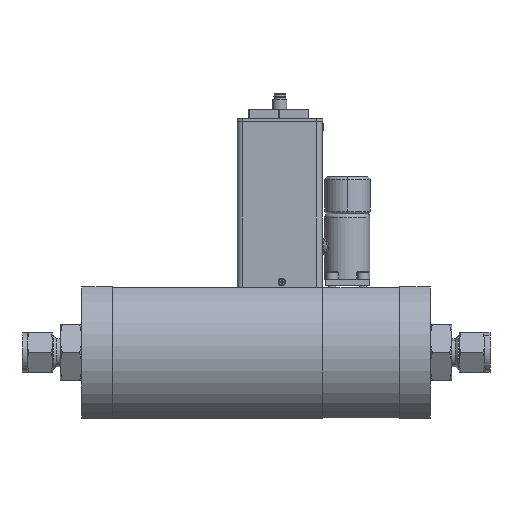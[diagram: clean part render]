
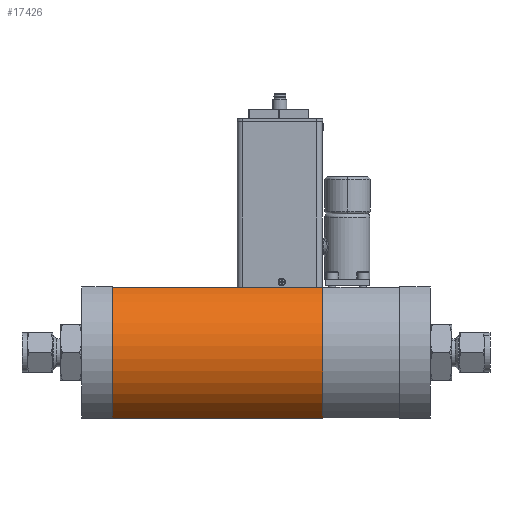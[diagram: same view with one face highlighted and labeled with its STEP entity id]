
A CAD part, front view. The second image highlights one B-rep face of the part: STEP entity #17426.
In plain terms, the highlighted cylindrical face has radius 42 mm (diameter 84 mm), a partial arc.
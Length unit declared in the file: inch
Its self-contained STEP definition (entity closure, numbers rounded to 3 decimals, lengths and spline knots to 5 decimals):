
#558 = ORIENTED_EDGE ( 'NONE', *, *, #13281, .T. ) ;
#2277 = LINE ( 'NONE', #19900, #32458 ) ;
#6388 = AXIS2_PLACEMENT_3D ( 'NONE', #45977, #26306, #76818 ) ;
#6580 = VERTEX_POINT ( 'NONE', #76043 ) ;
#9542 = VECTOR ( 'NONE', #43961, 39.37008 ) ;
#10086 = CARTESIAN_POINT ( 'NONE',  ( 1.99617, 0.73011, 0.0165 ) ) ;
#12201 = CARTESIAN_POINT ( 'NONE',  ( 1.99617, -0.02996, -1.45201 ) ) ;
#13281 = EDGE_CURVE ( 'NONE', #73789, #6580, #80561, .T. ) ;
#15432 = DIRECTION ( 'NONE',  ( 0., 0., 1. ) ) ;
#17426 = ADVANCED_FACE ( 'NONE', ( #21502 ), #46505, .T. ) ;
#19900 = CARTESIAN_POINT ( 'NONE',  ( -12.72824, -0.02996, 1.485 ) ) ;
#21502 = FACE_OUTER_BOUND ( 'NONE', #70960, .T. ) ;
#26306 = DIRECTION ( 'NONE',  ( -1., 0., 0. ) ) ;
#31246 = VERTEX_POINT ( 'NONE', #55505 ) ;
#32458 = VECTOR ( 'NONE', #57263, 39.37008 ) ;
#33703 = EDGE_CURVE ( 'NONE', #6580, #79728, #2277, .T. ) ;
#40360 = CARTESIAN_POINT ( 'NONE',  ( -2.72824, 0.73011, 0.0165 ) ) ;
#43072 = CIRCLE ( 'NONE', #6388, 1.65354 ) ;
#43131 = CARTESIAN_POINT ( 'NONE',  ( -2.72824, -0.02996, -1.45201 ) ) ;
#43961 = DIRECTION ( 'NONE',  ( 1., 0., 0. ) ) ;
#45977 = CARTESIAN_POINT ( 'NONE',  ( -2.72824, 0.73011, 0.0165 ) ) ;
#46505 = CYLINDRICAL_SURFACE ( 'NONE', #50203, 1.65354 ) ;
#47293 = ORIENTED_EDGE ( 'NONE', *, *, #33703, .T. ) ;
#49031 = ORIENTED_EDGE ( 'NONE', *, *, #70920, .T. ) ;
#50203 = AXIS2_PLACEMENT_3D ( 'NONE', #40360, #65417, #53880 ) ;
#50513 = LINE ( 'NONE', #43131, #9542 ) ;
#53880 = DIRECTION ( 'NONE',  ( 0., 0., 1. ) ) ;
#55505 = CARTESIAN_POINT ( 'NONE',  ( -2.72824, -0.02996, -1.45201 ) ) ;
#56792 = CARTESIAN_POINT ( 'NONE',  ( -2.72824, -0.02996, 1.485 ) ) ;
#56992 = AXIS2_PLACEMENT_3D ( 'NONE', #10086, #71687, #15432 ) ;
#57263 = DIRECTION ( 'NONE',  ( -1., 0., 0. ) ) ;
#65417 = DIRECTION ( 'NONE',  ( 1., 0., 0. ) ) ;
#70920 = EDGE_CURVE ( 'NONE', #31246, #73789, #50513, .T. ) ;
#70960 = EDGE_LOOP ( 'NONE', ( #47293, #72345, #49031, #558 ) ) ;
#71687 = DIRECTION ( 'NONE',  ( -1., 0., 0. ) ) ;
#72345 = ORIENTED_EDGE ( 'NONE', *, *, #75425, .F. ) ;
#73789 = VERTEX_POINT ( 'NONE', #12201 ) ;
#75425 = EDGE_CURVE ( 'NONE', #31246, #79728, #43072, .T. ) ;
#76043 = CARTESIAN_POINT ( 'NONE',  ( 1.99617, -0.02996, 1.485 ) ) ;
#76818 = DIRECTION ( 'NONE',  ( 0., 0., 1. ) ) ;
#79728 = VERTEX_POINT ( 'NONE', #56792 ) ;
#80561 = CIRCLE ( 'NONE', #56992, 1.65354 ) ;
